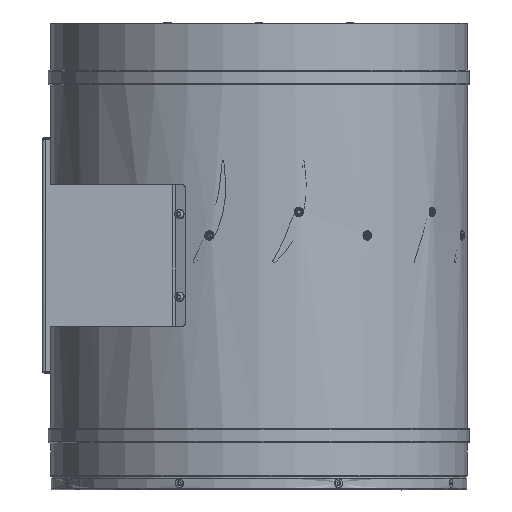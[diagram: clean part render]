
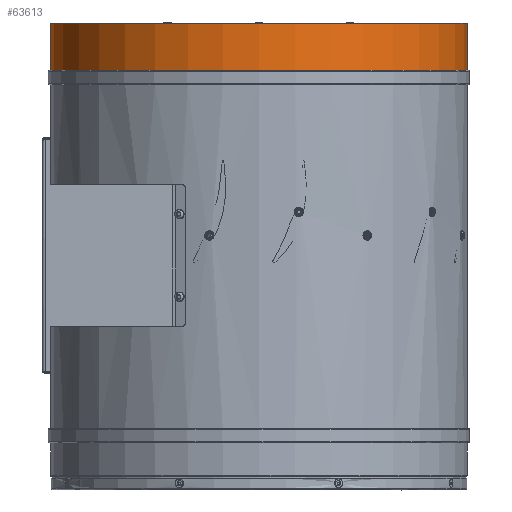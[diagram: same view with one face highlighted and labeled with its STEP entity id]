
A CAD part, left-side view. The second image highlights one B-rep face of the part: STEP entity #63613.
In plain terms, the highlighted cylindrical face has radius 176.75 mm (diameter 353.5 mm), a partial arc.
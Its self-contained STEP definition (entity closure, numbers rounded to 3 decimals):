
#18749 = ORIENTED_EDGE ( 'NONE', *, *, #173221, .T. ) ;
#23283 = CIRCLE ( 'NONE', #349889, 176.75 ) ;
#39458 = VECTOR ( 'NONE', #224876, 1000. ) ;
#45407 = DIRECTION ( 'NONE',  ( 0., 0., -1. ) ) ;
#55927 = CARTESIAN_POINT ( 'NONE',  ( -4.314, -175.762, -166.284 ) ) ;
#57190 = EDGE_CURVE ( 'NONE', #113204, #184856, #144185, .T. ) ;
#61384 = EDGE_CURVE ( 'NONE', #184856, #244093, #375272, .T. ) ;
#62526 = VECTOR ( 'NONE', #332603, 1000. ) ;
#63613 = ADVANCED_FACE ( 'NONE', ( #134657 ), #206713, .T. ) ;
#64813 = CARTESIAN_POINT ( 'NONE',  ( -4.314, 177.738, 157.466 ) ) ;
#87404 = CARTESIAN_POINT ( 'NONE',  ( -4.314, 0.988, 157.466 ) ) ;
#90002 = ORIENTED_EDGE ( 'NONE', *, *, #61384, .F. ) ;
#113204 = VERTEX_POINT ( 'NONE', #295474 ) ;
#118260 = DIRECTION ( 'NONE',  ( 0., -1., 0. ) ) ;
#120945 = CARTESIAN_POINT ( 'NONE',  ( -4.314, 0.988, -166.284 ) ) ;
#134657 = FACE_OUTER_BOUND ( 'NONE', #163071, .T. ) ;
#144185 = LINE ( 'NONE', #55927, #62526 ) ;
#155313 = VERTEX_POINT ( 'NONE', #281185 ) ;
#163071 = EDGE_LOOP ( 'NONE', ( #176951, #18749, #90002, #206020 ) ) ;
#173221 = EDGE_CURVE ( 'NONE', #155313, #244093, #202776, .T. ) ;
#176951 = ORIENTED_EDGE ( 'NONE', *, *, #198024, .T. ) ;
#180104 = AXIS2_PLACEMENT_3D ( 'NONE', #120945, #243215, #182736 ) ;
#182736 = DIRECTION ( 'NONE',  ( 0., -1., 0. ) ) ;
#184856 = VERTEX_POINT ( 'NONE', #371777 ) ;
#198024 = EDGE_CURVE ( 'NONE', #113204, #155313, #23283, .T. ) ;
#202776 = LINE ( 'NONE', #378089, #39458 ) ;
#206020 = ORIENTED_EDGE ( 'NONE', *, *, #57190, .F. ) ;
#206713 = CYLINDRICAL_SURFACE ( 'NONE', #180104, 176.75 ) ;
#224876 = DIRECTION ( 'NONE',  ( 0., 0., -1. ) ) ;
#229393 = CARTESIAN_POINT ( 'NONE',  ( -4.314, 0.988, 197.466 ) ) ;
#243215 = DIRECTION ( 'NONE',  ( 0., 0., -1. ) ) ;
#244093 = VERTEX_POINT ( 'NONE', #64813 ) ;
#260332 = DIRECTION ( 'NONE',  ( 0., -1., 0. ) ) ;
#281185 = CARTESIAN_POINT ( 'NONE',  ( -4.314, 177.738, 197.466 ) ) ;
#295474 = CARTESIAN_POINT ( 'NONE',  ( -4.314, -175.762, 197.466 ) ) ;
#302347 = DIRECTION ( 'NONE',  ( 0., 0., -1. ) ) ;
#332603 = DIRECTION ( 'NONE',  ( 0., 0., -1. ) ) ;
#339665 = AXIS2_PLACEMENT_3D ( 'NONE', #87404, #302347, #118260 ) ;
#349889 = AXIS2_PLACEMENT_3D ( 'NONE', #229393, #45407, #260332 ) ;
#371777 = CARTESIAN_POINT ( 'NONE',  ( -4.314, -175.762, 157.466 ) ) ;
#375272 = CIRCLE ( 'NONE', #339665, 176.75 ) ;
#378089 = CARTESIAN_POINT ( 'NONE',  ( -4.314, 177.738, -166.284 ) ) ;
